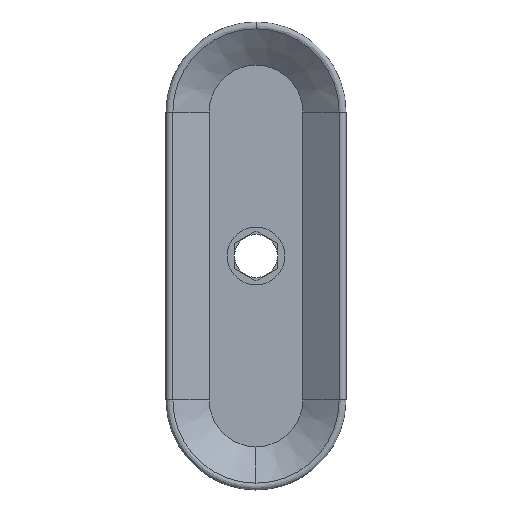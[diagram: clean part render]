
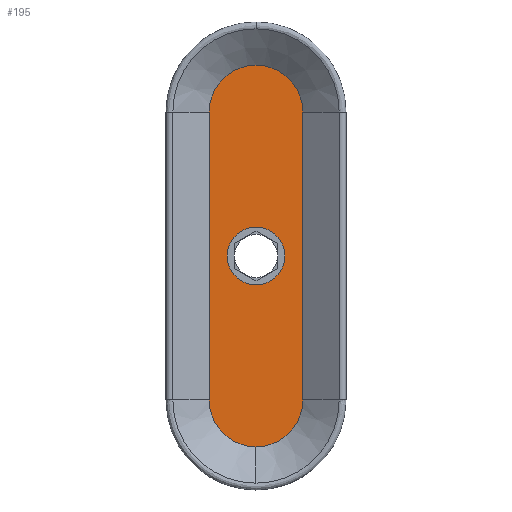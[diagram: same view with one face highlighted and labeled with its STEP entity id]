
A CAD part, front view. The second image highlights one B-rep face of the part: STEP entity #195.
In plain terms, the highlighted planar face has unit normal (0, -1, 0).
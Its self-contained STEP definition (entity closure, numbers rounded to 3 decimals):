
#16 = DIRECTION ( 'NONE',  ( 0., 0., 1. ) ) ;
#98 = VERTEX_POINT ( 'NONE', #5607 ) ;
#195 = ADVANCED_FACE ( 'NONE', ( #7436, #5848 ), #3532, .T. ) ;
#348 = AXIS2_PLACEMENT_3D ( 'NONE', #7032, #3524, #7628 ) ;
#413 = CARTESIAN_POINT ( 'NONE',  ( 0., 3., 20. ) ) ;
#447 = CARTESIAN_POINT ( 'NONE',  ( -6.5, 3., 20. ) ) ;
#592 = CARTESIAN_POINT ( 'NONE',  ( 6.5, 3., 20. ) ) ;
#689 = AXIS2_PLACEMENT_3D ( 'NONE', #5407, #1845, #5991 ) ;
#757 = LINE ( 'NONE', #2874, #3624 ) ;
#781 = CARTESIAN_POINT ( 'NONE',  ( 0., 3., 0. ) ) ;
#1034 = DIRECTION ( 'NONE',  ( -1., 0., 0. ) ) ;
#1086 = CARTESIAN_POINT ( 'NONE',  ( 6.5, 3., 20. ) ) ;
#1316 = LINE ( 'NONE', #592, #2555 ) ;
#1412 = DIRECTION ( 'NONE',  ( -1., 0., 0. ) ) ;
#1817 = VERTEX_POINT ( 'NONE', #5153 ) ;
#1845 = DIRECTION ( 'NONE',  ( 0., -1., 0. ) ) ;
#2063 = CIRCLE ( 'NONE', #689, 6.5 ) ;
#2073 = CARTESIAN_POINT ( 'NONE',  ( -4., 3., 0. ) ) ;
#2081 = ORIENTED_EDGE ( 'NONE', *, *, #7329, .T. ) ;
#2148 = AXIS2_PLACEMENT_3D ( 'NONE', #781, #4959, #1412 ) ;
#2206 = VERTEX_POINT ( 'NONE', #4119 ) ;
#2351 = EDGE_LOOP ( 'NONE', ( #2371, #5681, #5852, #7629 ) ) ;
#2371 = ORIENTED_EDGE ( 'NONE', *, *, #5458, .T. ) ;
#2555 = VECTOR ( 'NONE', #16, 1000. ) ;
#2874 = CARTESIAN_POINT ( 'NONE',  ( -6.5, 3., 20. ) ) ;
#3469 = DIRECTION ( 'NONE',  ( 0., 0., -1. ) ) ;
#3506 = DIRECTION ( 'NONE',  ( 1., 0., 0. ) ) ;
#3524 = DIRECTION ( 'NONE',  ( 0., 1., 0. ) ) ;
#3529 = CIRCLE ( 'NONE', #2148, 4. ) ;
#3532 = PLANE ( 'NONE',  #5513 ) ;
#3624 = VECTOR ( 'NONE', #3469, 1000. ) ;
#3648 = VERTEX_POINT ( 'NONE', #1086 ) ;
#3676 = EDGE_CURVE ( 'NONE', #1817, #3648, #1316, .T. ) ;
#3756 = DIRECTION ( 'NONE',  ( 0., -1., 0. ) ) ;
#3780 = CARTESIAN_POINT ( 'NONE',  ( 0., 3., 20. ) ) ;
#3872 = ORIENTED_EDGE ( 'NONE', *, *, #6800, .T. ) ;
#4119 = CARTESIAN_POINT ( 'NONE',  ( 4., 3., 0. ) ) ;
#4573 = VERTEX_POINT ( 'NONE', #447 ) ;
#4632 = DIRECTION ( 'NONE',  ( 0., -1., 0. ) ) ;
#4959 = DIRECTION ( 'NONE',  ( 0., 1., 0. ) ) ;
#4985 = EDGE_LOOP ( 'NONE', ( #2081, #3872 ) ) ;
#5153 = CARTESIAN_POINT ( 'NONE',  ( 6.5, 3., -20. ) ) ;
#5256 = CIRCLE ( 'NONE', #7585, 6.5 ) ;
#5407 = CARTESIAN_POINT ( 'NONE',  ( 0., 3., -20. ) ) ;
#5458 = EDGE_CURVE ( 'NONE', #98, #1817, #2063, .T. ) ;
#5513 = AXIS2_PLACEMENT_3D ( 'NONE', #3780, #3756, #3506 ) ;
#5607 = CARTESIAN_POINT ( 'NONE',  ( -6.5, 3., -20. ) ) ;
#5681 = ORIENTED_EDGE ( 'NONE', *, *, #3676, .T. ) ;
#5848 = FACE_BOUND ( 'NONE', #4985, .T. ) ;
#5852 = ORIENTED_EDGE ( 'NONE', *, *, #6382, .T. ) ;
#5991 = DIRECTION ( 'NONE',  ( -1., 0., 0. ) ) ;
#6382 = EDGE_CURVE ( 'NONE', #3648, #4573, #5256, .T. ) ;
#6537 = CIRCLE ( 'NONE', #348, 4. ) ;
#6800 = EDGE_CURVE ( 'NONE', #2206, #6886, #3529, .T. ) ;
#6886 = VERTEX_POINT ( 'NONE', #2073 ) ;
#7032 = CARTESIAN_POINT ( 'NONE',  ( 0., 3., 0. ) ) ;
#7204 = EDGE_CURVE ( 'NONE', #4573, #98, #757, .T. ) ;
#7329 = EDGE_CURVE ( 'NONE', #6886, #2206, #6537, .T. ) ;
#7436 = FACE_OUTER_BOUND ( 'NONE', #2351, .T. ) ;
#7585 = AXIS2_PLACEMENT_3D ( 'NONE', #413, #4632, #1034 ) ;
#7628 = DIRECTION ( 'NONE',  ( -1., 0., 0. ) ) ;
#7629 = ORIENTED_EDGE ( 'NONE', *, *, #7204, .T. ) ;
